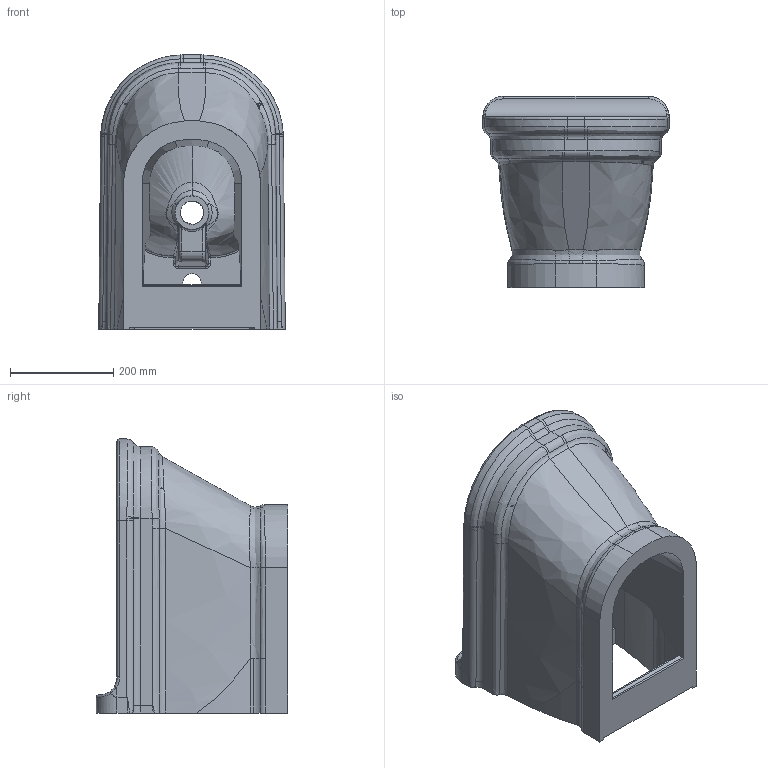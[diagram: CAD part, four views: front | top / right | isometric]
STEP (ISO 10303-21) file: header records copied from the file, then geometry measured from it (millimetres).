
FILE_DESCRIPTION (( 'STEP AP203' ), '1' );
FILE_NAME ('AN510.STEP', '2022-04-04T08:15:29', ( '' ), ( '' ), 'SwSTEP 2.0', 'SolidWorks 2021', '' );
FILE_SCHEMA (( 'CONFIG_CONTROL_DESIGN' ));
Length unit declared in the file: millimetre
Products named in the file (1): AN510
Bounding box: 360 x 370 x 530 mm (x, y, z)
Volume: 18012633.8 mm3; surface area: 1120732.4 mm2
Topology: 2 solids, 2 shells, 313 faces, 852 edges, 539 vertices
Faces by surface type: bspline 132, cylinder 97, plane 72, torus 5, sphere 4, cone 3
Entity records: 80120 total; most frequent: CARTESIAN_POINT 73249, ORIENTED_EDGE 1700, DIRECTION 1084, EDGE_CURVE 850, VERTEX_POINT 539, AXIS2_PLACEMENT_3D 413, EDGE_LOOP 323, FACE_OUTER_BOUND 313
